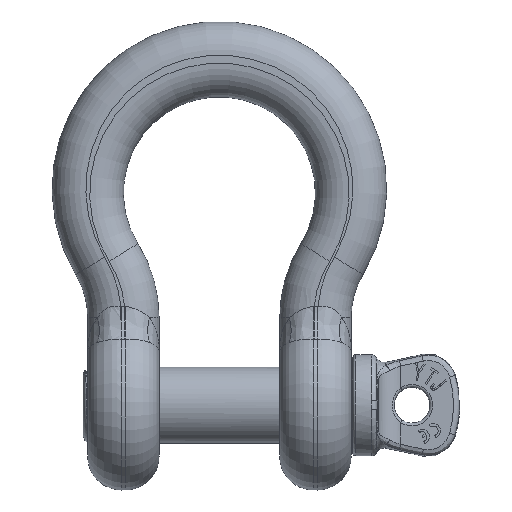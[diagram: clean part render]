
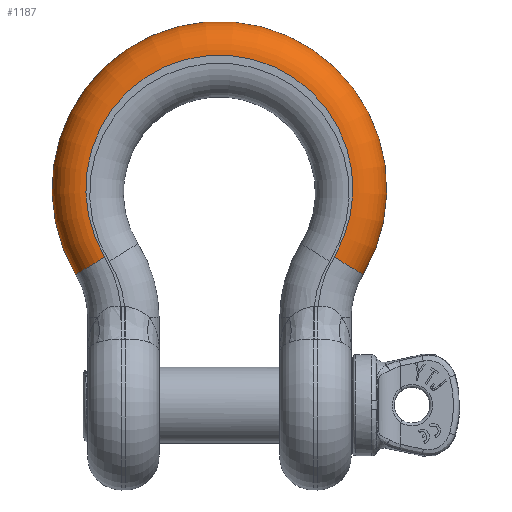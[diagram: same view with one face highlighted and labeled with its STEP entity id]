
A CAD part, top view. The second image highlights one B-rep face of the part: STEP entity #1187.
In plain terms, the highlighted toroidal (fillet/blend) face has major radius 47.5 mm and minor radius 12 mm.
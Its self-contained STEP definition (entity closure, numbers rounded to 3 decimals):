
#352=TOROIDAL_SURFACE('',#10471,47.5,12.);
#642=FACE_OUTER_BOUND('',#2309,.T.);
#1187=ADVANCED_FACE('',(#642),#352,.T.);
#1901=CIRCLE('',#10421,47.5);
#1911=CIRCLE('',#10435,59.5);
#1930=CIRCLE('',#10466,12.);
#1932=CIRCLE('',#10470,12.);
#2309=EDGE_LOOP('',(#5041,#5042,#5043,#5044));
#5041=ORIENTED_EDGE('',*,*,#8443,.F.);
#5042=ORIENTED_EDGE('',*,*,#8397,.F.);
#5043=ORIENTED_EDGE('',*,*,#8446,.T.);
#5044=ORIENTED_EDGE('',*,*,#8376,.F.);
#7177=VERTEX_POINT('',#19247);
#7178=VERTEX_POINT('',#19249);
#7192=VERTEX_POINT('',#19290);
#7193=VERTEX_POINT('',#19294);
#8376=EDGE_CURVE('',#7177,#7178,#1901,.T.);
#8397=EDGE_CURVE('',#7193,#7192,#1911,.T.);
#8443=EDGE_CURVE('',#7192,#7177,#1930,.T.);
#8446=EDGE_CURVE('',#7193,#7178,#1932,.T.);
#10421=AXIS2_PLACEMENT_3D('',#19248,#11612,#11613);
#10435=AXIS2_PLACEMENT_3D('',#19295,#11649,#11650);
#10466=AXIS2_PLACEMENT_3D('',#19435,#11726,#11727);
#10470=AXIS2_PLACEMENT_3D('',#19446,#11734,#11735);
#10471=AXIS2_PLACEMENT_3D('',#19447,#11736,#11737);
#11612=DIRECTION('',(0.,0.,1.));
#11613=DIRECTION('',(-1.,0.,0.));
#11649=DIRECTION('',(0.,0.,-1.));
#11650=DIRECTION('',(-1.,0.,0.));
#11726=DIRECTION('',(-0.513,-0.859,0.));
#11727=DIRECTION('',(-0.859,0.513,0.));
#11734=DIRECTION('',(-0.513,0.859,0.));
#11735=DIRECTION('',(0.859,0.513,0.));
#11736=DIRECTION('',(0.,0.,-1.));
#11737=DIRECTION('',(-1.,0.,0.));
#19247=CARTESIAN_POINT('',(40.786,-24.346,13.5));
#19248=CARTESIAN_POINT('',(0.,0.,13.5));
#19249=CARTESIAN_POINT('',(-40.786,-24.346,13.5));
#19290=CARTESIAN_POINT('',(51.09,-30.497,1.5));
#19294=CARTESIAN_POINT('',(-51.09,-30.497,1.5));
#19295=CARTESIAN_POINT('',(0.,0.,1.5));
#19435=CARTESIAN_POINT('',(40.786,-24.346,1.5));
#19446=CARTESIAN_POINT('',(-40.786,-24.346,1.5));
#19447=CARTESIAN_POINT('',(0.,0.,1.5));
